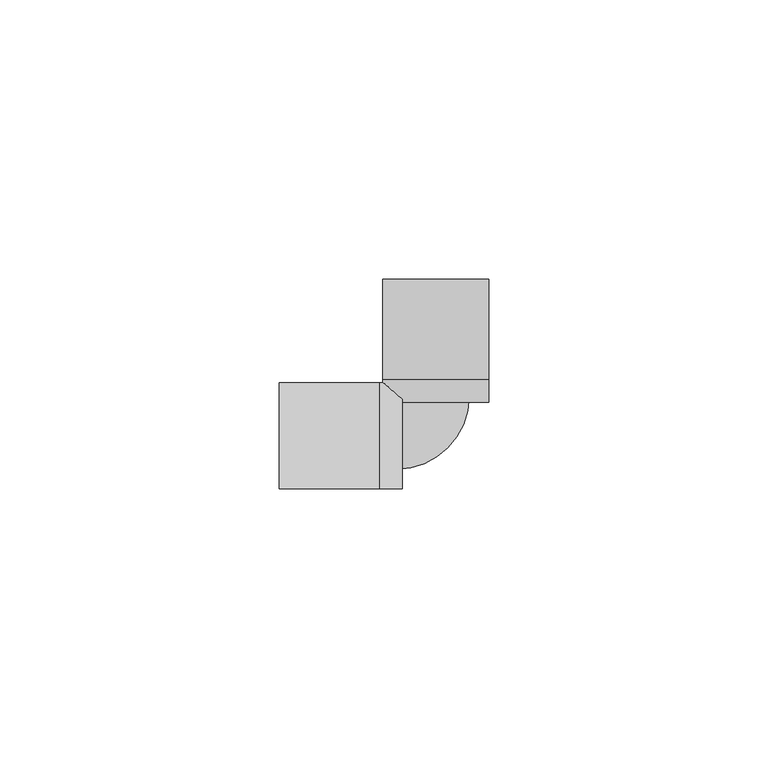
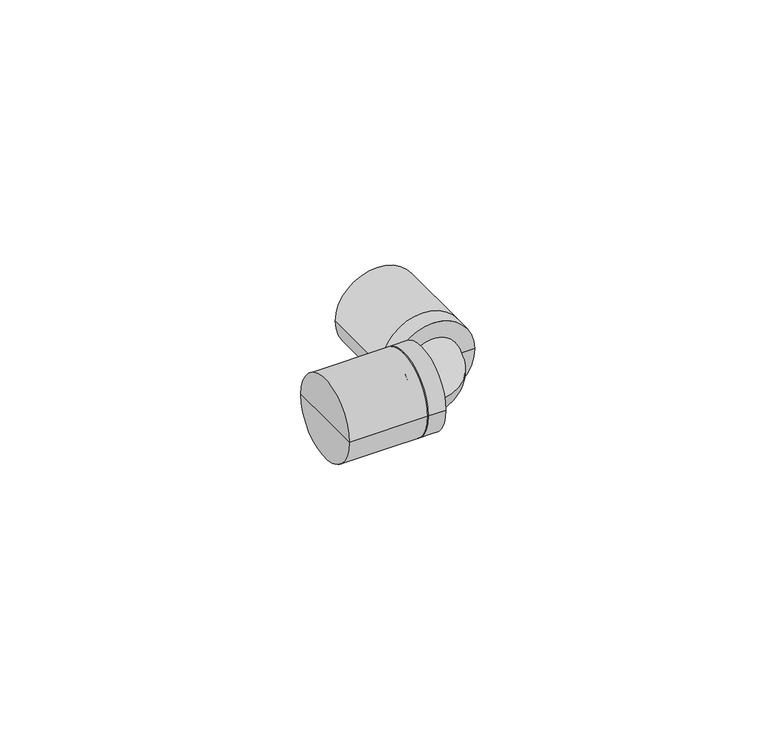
"""IFC4 building model written with IfcOpenShell, lengths in millimetres: pipe fitting geometry, KAN-therm Push kolano : KAN-therm Push kolano."""

import ifcopenshell
import ifcopenshell.guid

model = None  # the IFC model being written
_history = None  # IfcOwnerHistory: only IFC2X3 demands one
_inside = {}  # id of a spatial element -> (the spatial element, [elements in it])
_under = {}  # id of a project, library or spatial element -> (it, [spatial elements below it])
_declared = {}  # id of a project -> (the project, [libraries it declares])
_typed = {}  # id of a type object -> (the type object, [elements of that type])
_made_of = {}  # id of a material, layer set ... -> (it, [elements and type objects made of it])


def new_model(schema):
    """Start an empty IFC model of exactly this schema.

    Asked for "IFC4X3", IfcOpenShell would pick the latest addendum, in which some entities
    have other attributes; the version numbers below select the first issue.
    IFC2X3 requires an IfcOwnerHistory on every rooted entity: one is made here for all.
    """
    global model, _history
    if schema == "IFC4X3":
        model = ifcopenshell.file(schema_version=(4, 3, 0, 0))
    else:
        model = ifcopenshell.file(schema=schema)
    _inside.clear()
    _under.clear()
    _declared.clear()
    _typed.clear()
    _made_of.clear()
    _history = None
    if model.schema == "IFC2X3":
        org = make("IfcOrganization", Name="unknown")
        user = make(
            "IfcPersonAndOrganization",
            ThePerson=make("IfcPerson", FamilyName="unknown"),
            TheOrganization=org,
        )
        app = make(
            "IfcApplication",
            ApplicationDeveloper=org,
            Version="unknown",
            ApplicationFullName="unknown",
            ApplicationIdentifier="unknown",
        )
        _history = make(
            "IfcOwnerHistory",
            OwningUser=user,
            OwningApplication=app,
            ChangeAction="ADDED",
            CreationDate=0,
        )
    return model


def make(cls, **values):
    """One entity of the class cls with the attributes given. An attribute that is None is left unset."""
    return model.create_entity(
        cls, **{name: value for name, value in values.items() if value is not None}
    )


def rooted(cls, **values):
    """An entity with a GlobalId (a new one), such as an element, a storey or a relation."""
    return make(cls, GlobalId=ifcopenshell.guid.new(), OwnerHistory=_history, **values)


def si_unit(unit_type, name, prefix=None):
    """IfcSIUnit, for example si_unit("LENGTHUNIT", "METRE", prefix="MILLI")."""
    return make("IfcSIUnit", UnitType=unit_type, Prefix=prefix, Name=name)


def assignment(units):
    """IfcUnitAssignment: the units of a project."""
    return None if units is None else make("IfcUnitAssignment", Units=units)


def point(xyz):
    """IfcCartesianPoint."""
    return None if xyz is None else make("IfcCartesianPoint", Coordinates=xyz)


def direction(xyz):
    """IfcDirection."""
    return None if xyz is None else make("IfcDirection", DirectionRatios=xyz)


def frame(location, z_axis=None, x_axis=None):
    """IfcAxis2Placement3D, a coordinate frame: its origin and axes. An axis left out is left unset."""
    return make(
        "IfcAxis2Placement3D",
        Location=point(location),
        Axis=direction(z_axis),
        RefDirection=direction(x_axis),
    )


def origin():
    """The frame at (0, 0, 0) with its axes left unset."""
    return frame((0.0, 0.0, 0.0))


def place(relative_to, where):
    """IfcLocalPlacement: puts the frame where relative to a parent placement (None: the world)."""
    return make(
        "IfcLocalPlacement", PlacementRelTo=relative_to, RelativePlacement=where
    )


def context(
    kind, dimensions, precision=None, world=None, true_north=None, identifier=None
):
    """IfcGeometricRepresentationContext, for example the 3D "Model" context."""
    return make(
        "IfcGeometricRepresentationContext",
        ContextIdentifier=identifier,
        ContextType=kind,
        CoordinateSpaceDimension=dimensions,
        Precision=precision,
        WorldCoordinateSystem=world,
        TrueNorth=true_north,
    )


def project(units=None, contexts=None):
    """IfcProject with its units and contexts."""
    return rooted(
        "IfcProject",
        Name="project",
        RepresentationContexts=contexts,
        UnitsInContext=assignment(units),
    )


def spatial(cls, under=None, at=None, **own):
    """A site, building, storey or space (cls), placed at a placement, below another one or the project."""
    s = rooted(cls, ObjectPlacement=at, **own)
    if under is not None:
        _under.setdefault(under.id(), (under, []))[1].append(s)
    return s


def circle_curve(where, radius):
    """IfcCircle in the frame where."""
    return make("IfcCircle", Position=where, Radius=radius)


def ellipse_curve(where, semi_axis1, semi_axis2):
    """IfcEllipse in the frame where."""
    return make(
        "IfcEllipse", Position=where, SemiAxis1=semi_axis1, SemiAxis2=semi_axis2
    )


def trimmed(basis, trim1, trim2, sense, master):
    """IfcTrimmedCurve: the piece of a basis curve between two trims."""
    return make(
        "IfcTrimmedCurve",
        BasisCurve=basis,
        Trim1=trim1,
        Trim2=trim2,
        SenseAgreement=sense,
        MasterRepresentation=master,
    )


def shape(context_of_items, identifier, shape_type, items):
    """IfcShapeRepresentation: the items that make up one representation, for example the "Body"."""
    return make(
        "IfcShapeRepresentation",
        ContextOfItems=context_of_items,
        RepresentationIdentifier=identifier,
        RepresentationType=shape_type,
        Items=items,
    )


def source(mapping_origin, context_of_items, identifier, shape_type, items):
    """IfcRepresentationMap: a shape defined once, which mapped items show again and again."""
    return make(
        "IfcRepresentationMap",
        MappingOrigin=mapping_origin,
        MappedRepresentation=shape(context_of_items, identifier, shape_type, items),
    )


def transform(
    local_origin,
    x_axis=None,
    y_axis=None,
    z_axis=None,
    scale=None,
    scale2=None,
    scale3=None,
    uniform=True,
):
    """IfcCartesianTransformationOperator3D, or its non-uniform kind. x_axis, y_axis, z_axis: its Axis1, 2, 3."""
    if uniform:
        return make(
            "IfcCartesianTransformationOperator3D",
            Axis1=direction(x_axis),
            Axis2=direction(y_axis),
            LocalOrigin=point(local_origin),
            Scale=scale,
            Axis3=direction(z_axis),
        )
    return make(
        "IfcCartesianTransformationOperator3DnonUniform",
        Axis1=direction(x_axis),
        Axis2=direction(y_axis),
        LocalOrigin=point(local_origin),
        Scale=scale,
        Axis3=direction(z_axis),
        Scale2=scale2,
        Scale3=scale3,
    )


def mapped(mapping_source, mapping_target):
    """IfcMappedItem: shows the shape of a source again, moved by a transform."""
    return make(
        "IfcMappedItem", MappingSource=mapping_source, MappingTarget=mapping_target
    )


def made_of(thing, what):
    """Note that an element or type object is made of a material, layer set ...; save() writes the relation."""
    if what is not None:
        _made_of.setdefault(what.id(), (what, []))[1].append(thing)
    return thing


def element(
    cls,
    number,
    at=None,
    inside=None,
    cuts=None,
    type_object=None,
    material=None,
    context=None,
    identifier="Body",
    shape_type=None,
    held_by="IfcProductDefinitionShape",
    body=None,
    shapes=None,
    **own,
):
    """One element of the class cls, such as IfcWall. Its Tag is "e" and its number.

    at: its placement. inside: the storey or other place that contains it. cuts: it is an
    opening in that element (IfcRelVoidsElement). A single representation is given by context,
    identifier, shape_type and body (its items); several are given by shapes. held_by: the class
    of the entity that holds the representations. save() writes the other relations.
    """
    e = rooted(cls, Tag="e%d" % number, ObjectPlacement=at, **own)
    if body is not None:
        shapes = [shape(context, identifier, shape_type, body)]
    if shapes is not None:
        e.Representation = make(held_by, Representations=shapes)
    if inside is not None:
        _inside.setdefault(inside.id(), (inside, []))[1].append(e)
    if cuts is not None:
        rooted(
            "IfcRelVoidsElement", RelatingBuildingElement=cuts, RelatedOpeningElement=e
        )
    if type_object is not None:
        _typed.setdefault(type_object.id(), (type_object, []))[1].append(e)
    return made_of(e, material)


def aggregate(whole, parts):
    """IfcRelAggregates: a whole, such as a stair, and the parts it consists of."""
    return rooted("IfcRelAggregates", RelatingObject=whole, RelatedObjects=parts)


def save(model, path):
    """Write the relations noted so far, then the file.

    IfcRelAggregates (storeys below a building ...), IfcRelContainedInSpatialStructure (elements
    in a storey), IfcRelDefinesByType, IfcRelAssociatesMaterial and IfcRelDeclares: one each for
    every whole, place, type object, material and project.
    """
    for whole, parts in _under.values():
        aggregate(whole, parts)
    for where, things in _inside.values():
        rooted(
            "IfcRelContainedInSpatialStructure",
            RelatedElements=things,
            RelatingStructure=where,
        )
    for kind, things in _typed.values():
        rooted("IfcRelDefinesByType", RelatedObjects=things, RelatingType=kind)
    for what, things in _made_of.values():
        rooted("IfcRelAssociatesMaterial", RelatedObjects=things, RelatingMaterial=what)
    for by, libraries in _declared.values():
        rooted("IfcRelDeclares", RelatingContext=by, RelatedDefinitions=libraries)
    model.write(path)


def plane_surface(at):
    """IfcPlane: the flat surface through the origin of the frame at, square to its z axis."""
    return make("IfcPlane", Position=at)


def cylinder_surface(at, radius):
    """IfcCylindricalSurface: all points at the distance radius from the z axis of the frame at."""
    return make("IfcCylindricalSurface", Position=at, Radius=radius)


def revolved_surface(curve, axis_point, axis_direction):
    """IfcSurfaceOfRevolution: the curve turned about the line through axis_point along axis_direction."""
    return make(
        "IfcSurfaceOfRevolution",
        SweptCurve=make("IfcArbitraryOpenProfileDef", ProfileType="CURVE", Curve=curve),
        AxisPosition=make("IfcAxis1Placement", Location=point(axis_point), Axis=direction(axis_direction)),
    )


def advanced_brep(points, edges, surfaces, faces):
    """IfcAdvancedBrep: a solid bounded by faces that lie on surfaces and meet in shared edges.

    An edge is (start, end): straight between two places in points (the first is 0);
    or (start, end, curve); or (start, end, curve, False) where it runs against its curve.
    A face is (place in surfaces, loops), or (place, loops, False) where it looks against
    its surface's normal. A loop lists edges by number (the first is 1), with a minus sign
    where the edge is run from its end to its start. The first loop is the outer one.
    """
    corners = [point(p) for p in points]
    vertices = [make("IfcVertexPoint", VertexGeometry=c) for c in corners]
    made = []
    for start, end, *more in edges:
        made.append(
            make(
                "IfcEdgeCurve",
                EdgeStart=vertices[start],
                EdgeEnd=vertices[end],
                EdgeGeometry=more[0] if more else make("IfcPolyline", Points=[corners[start], corners[end]]),
                SameSense=more[1] if len(more) > 1 else True,
            )
        )
    hull = []
    for where, loops, *sense in faces:
        bounds = []
        for j, loop in enumerate(loops):
            ring = [make("IfcOrientedEdge", EdgeElement=made[abs(k) - 1], Orientation=k > 0) for k in loop]
            bounds.append(
                make(
                    "IfcFaceOuterBound" if j == 0 else "IfcFaceBound",
                    Bound=make("IfcEdgeLoop", EdgeList=ring),
                    Orientation=True,
                )
            )
        hull.append(make("IfcAdvancedFace", Bounds=bounds, FaceSurface=surfaces[where], SameSense=sense[0] if sense else True))
    return make("IfcAdvancedBrep", Outer=make("IfcClosedShell", CfsFaces=hull))


def pipe_fitting_6dfe967d(model_context):
    return source(origin(), model_context, "Body", "AdvancedBrep", [
        advanced_brep(
        [(-10.0, 9.5, 0.0), (-10.0, -9.5, 0.0), (-10.0, 0.0, 0.0), (-6.0, 9.5, 0.0), (-6.0, -9.5, 0.0), (-6.0, 0.0, 0.0)],
        [
            (0, 1, circle_curve(frame((-10.0, 0.0, 0.0), z_axis=(-1.0, 0.0, 0.0), x_axis=(0.0, -1.0, 0.0)), 9.5)),
            (1, 2),
            (2, 0),
            (1, 0, circle_curve(frame((-10.0, 0.0, 0.0), z_axis=(-1.0, 0.0, 0.0), x_axis=(0.0, -1.0, 0.0)), 9.5)),
            (3, 4, circle_curve(frame((-6.0, 0.0, 0.0), z_axis=(-1.0, 0.0, 0.0), x_axis=(0.0, -1.0, 0.0)), 9.5)),
            (4, 1),
            (0, 3),
            (4, 3, circle_curve(frame((-6.0, 0.0, 0.0), z_axis=(-1.0, 0.0, 0.0), x_axis=(0.0, -1.0, 0.0)), 9.5)),
            (5, 4),
            (3, 5),
        ],
        [
            plane_surface(frame((-10.0, 0.0, 0.0), z_axis=(-1.0, 0.0, 0.0), x_axis=(0.0, -1.0, 0.0))),
            cylinder_surface(frame((-2005.0, 0.0, 0.0), z_axis=(1.0, 0.0, 0.0), x_axis=(0.0, -1.0, 0.0)), 9.5),
            plane_surface(frame((-6.0, 0.0, 0.0), z_axis=(1.0, 0.0, 0.0), x_axis=(0.0, -1.0, 0.0))),
        ],
        [
            (0, [[1, 2, 3]]),
            (0, [[4, -3, -2]]),
            (1, [[5, 6, -1, 7]]),
            (1, [[8, -7, -4, -6]]),
            (2, [[9, -5, 10]]),
            (2, [[-10, -8, -9]]),
        ],
    ),
        advanced_brep(
        [(-28.0, 9.5, 0.0), (-28.0, -9.5, 0.0), (-28.0, 0.0, 0.0), (-10.0, 9.5, 0.0), (-10.0, -9.5, 0.0), (-10.0, 0.0, 0.0)],
        [
            (0, 1, circle_curve(frame((-28.0, 0.0, 0.0), z_axis=(-1.0, 0.0, 0.0), x_axis=(0.0, -1.0, 0.0)), 9.5)),
            (1, 2),
            (2, 0),
            (1, 0, circle_curve(frame((-28.0, 0.0, 0.0), z_axis=(-1.0, 0.0, 0.0), x_axis=(0.0, -1.0, 0.0)), 9.5)),
            (3, 4, circle_curve(frame((-10.0, 0.0, 0.0), z_axis=(-1.0, 0.0, 0.0), x_axis=(0.0, -1.0, 0.0)), 9.5)),
            (4, 1),
            (0, 3),
            (4, 3, circle_curve(frame((-10.0, 0.0, 0.0), z_axis=(-1.0, 0.0, 0.0), x_axis=(0.0, -1.0, 0.0)), 9.5)),
            (5, 4),
            (3, 5),
        ],
        [
            plane_surface(frame((-28.0, 0.0, 0.0), z_axis=(-1.0, 0.0, 0.0), x_axis=(0.0, -1.0, 0.0))),
            cylinder_surface(frame((-2005.0, 0.0, 0.0), z_axis=(1.0, 0.0, 0.0), x_axis=(0.0, -1.0, 0.0)), 9.5),
            plane_surface(frame((-10.0, 0.0, 0.0), z_axis=(1.0, 0.0, 0.0), x_axis=(0.0, -1.0, 0.0))),
        ],
        [
            (0, [[1, 2, 3]]),
            (0, [[4, -3, -2]]),
            (1, [[5, 6, -1, 7]]),
            (1, [[8, -7, -4, -6]]),
            (2, [[9, -5, 10]]),
            (2, [[-10, -8, -9]]),
        ],
    ),
        advanced_brep(
        [(9.5, 10.0, 0.0), (-9.5, 10.0, 0.0), (0.0, 10.0, 0.0), (9.5, 6.0, 0.0), (-9.5, 6.0, 0.0), (0.0, 6.0, 0.0)],
        [
            (0, 1, circle_curve(frame((0.0, 10.0, 0.0), z_axis=(0.0, 1.0, 0.0), x_axis=(-1.0, 0.0, 0.0)), 9.5)),
            (1, 2),
            (2, 0),
            (1, 0, circle_curve(frame((0.0, 10.0, 0.0), z_axis=(0.0, 1.0, 0.0), x_axis=(-1.0, 0.0, 0.0)), 9.5)),
            (3, 4, circle_curve(frame((0.0, 6.0, 0.0), z_axis=(0.0, 1.0, 0.0), x_axis=(-1.0, 0.0, 0.0)), 9.5)),
            (4, 1),
            (0, 3),
            (4, 3, circle_curve(frame((0.0, 6.0, 0.0), z_axis=(0.0, 1.0, 0.0), x_axis=(-1.0, 0.0, 0.0)), 9.5)),
            (5, 4),
            (3, 5),
        ],
        [
            plane_surface(frame((0.0, 10.0, 0.0), z_axis=(0.0, 1.0, 0.0), x_axis=(-1.0, 0.0, 0.0))),
            cylinder_surface(frame((0.0, 2005.0, 0.0), z_axis=(0.0, -1.0, 0.0), x_axis=(-1.0, 0.0, 0.0)), 9.5),
            plane_surface(frame((0.0, 6.0, 0.0), z_axis=(0.0, -1.0, 0.0), x_axis=(-1.0, 0.0, 0.0))),
        ],
        [
            (0, [[1, 2, 3]]),
            (0, [[4, -3, -2]]),
            (1, [[5, 6, -1, 7]]),
            (1, [[8, -7, -4, -6]]),
            (2, [[9, -5, 10]]),
            (2, [[-10, -8, -9]]),
        ],
    ),
        advanced_brep(
        [(9.5, 28.0, 0.0), (-9.5, 28.0, 0.0), (0.0, 28.0, 0.0), (9.5, 10.0, 0.0), (-9.5, 10.0, 0.0), (0.0, 10.0, 0.0)],
        [
            (0, 1, circle_curve(frame((0.0, 28.0, 0.0), z_axis=(0.0, 1.0, 0.0), x_axis=(-1.0, 0.0, 0.0)), 9.5)),
            (1, 2),
            (2, 0),
            (1, 0, circle_curve(frame((0.0, 28.0, 0.0), z_axis=(0.0, 1.0, 0.0), x_axis=(-1.0, 0.0, 0.0)), 9.5)),
            (3, 4, circle_curve(frame((0.0, 10.0, 0.0), z_axis=(0.0, 1.0, 0.0), x_axis=(-1.0, 0.0, 0.0)), 9.5)),
            (4, 1),
            (0, 3),
            (4, 3, circle_curve(frame((0.0, 10.0, 0.0), z_axis=(0.0, 1.0, 0.0), x_axis=(-1.0, 0.0, 0.0)), 9.5)),
            (5, 4),
            (3, 5),
        ],
        [
            plane_surface(frame((0.0, 28.0, 0.0), z_axis=(0.0, 1.0, 0.0), x_axis=(-1.0, 0.0, 0.0))),
            cylinder_surface(frame((0.0, 2005.0, 0.0), z_axis=(0.0, -1.0, 0.0), x_axis=(-1.0, 0.0, 0.0)), 9.5),
            plane_surface(frame((0.0, 10.0, 0.0), z_axis=(0.0, -1.0, 0.0), x_axis=(-1.0, 0.0, 0.0))),
        ],
        [
            (0, [[1, 2, 3]]),
            (0, [[4, -3, -2]]),
            (1, [[5, 6, -1, 7]]),
            (1, [[8, -7, -4, -6]]),
            (2, [[9, -5, 10]]),
            (2, [[-10, -8, -9]]),
        ],
    ),
        advanced_brep(
        [(-6.0, 10.0, 0.0), (6.0, 10.0, 0.0), (-10.0, 6.0, 0.0), (-10.0, -6.0, 0.0), (-7.0, -6.0, 0.0), (-7.0, 6.0, 0.0), (-6.0, 7.0, 0.0), (6.0, 7.0, 0.0)],
        [
            (0, 1, circle_curve(frame((0.0, 10.0, 0.0), z_axis=(0.0, 1.0, 0.0), x_axis=(1.0, 0.0, 0.0)), 6.0)),
            (1, 0, circle_curve(frame((0.0, 10.0, 0.0), z_axis=(0.0, 1.0, 0.0), x_axis=(1.0, 0.0, 0.0)), 6.0)),
            (2, 3, circle_curve(frame((-10.0, 0.0, 0.0), z_axis=(-1.0, 0.0, 0.0), x_axis=(0.0, -1.0, 0.0)), 6.0)),
            (3, 2, circle_curve(frame((-10.0, 0.0, 0.0), z_axis=(-1.0, 0.0, 0.0), x_axis=(0.0, -1.0, 0.0)), 6.0)),
            (4, 5, circle_curve(frame((-7.0, 0.0, 0.0), z_axis=(-1.0, 0.0, 0.0), x_axis=(0.0, -1.0, 0.0)), 6.0)),
            (5, 2),
            (3, 4),
            (5, 4, circle_curve(frame((-7.0, 0.0, 0.0), z_axis=(-1.0, 0.0, 0.0), x_axis=(0.0, -1.0, 0.0)), 6.0)),
            (0, 6),
            (6, 7, circle_curve(frame((0.0, 7.0, 0.0), z_axis=(0.0, 1.0, 0.0), x_axis=(1.0, 0.0, 0.0)), 6.0)),
            (7, 1),
            (7, 6, circle_curve(frame((0.0, 7.0, 0.0), z_axis=(0.0, 1.0, 0.0), x_axis=(1.0, 0.0, 0.0)), 6.0)),
            (4, 7, circle_curve(frame((-7.0, 7.0, 0.0), z_axis=(0.0, 0.0, 1.0), x_axis=(1.0, 0.0, 0.0)), 13.0)),
            (6, 5, circle_curve(frame((-7.0, 7.0, 0.0), z_axis=(0.0, 0.0, -1.0), x_axis=(1.0, 0.0, 0.0)), 1.0)),
        ],
        [
            plane_surface(frame((0.0, 10.0, 0.0), z_axis=(0.0, 1.0, 0.0), x_axis=(0.0, 0.0, 1.0))),
            plane_surface(frame((-10.0, 0.0, 0.0), z_axis=(-1.0, 0.0, 0.0), x_axis=(0.0, 0.0, 1.0))),
            cylinder_surface(frame((-7.0, 0.0, 0.0), z_axis=(1.0, 0.0, 0.0), x_axis=(0.0, -1.0, 0.0)), 6.0),
            cylinder_surface(frame((0.0, 10.0, 0.0), z_axis=(0.0, 1.0, 0.0), x_axis=(1.0, 0.0, 0.0)), 6.0),
            revolved_surface(trimmed(ellipse_curve(frame((0.0, 7.0, 0.0), z_axis=(0.0, 1.0, 0.0), x_axis=(1.0, 0.0, 0.0)), 6.0, 6.0), [point((-6.0, 7.0, 0.0))], [point((6.0, 7.0, 0.0))], True, "CARTESIAN"), (-7.0, 7.0, 0.0), (0.0, 0.0, -1.0)),
            revolved_surface(trimmed(ellipse_curve(frame((0.0, 7.0, 0.0), z_axis=(0.0, 1.0, 0.0), x_axis=(1.0, 0.0, 0.0)), 6.0, 6.0), [point((6.0, 7.0, 0.0))], [point((-6.0, 7.0, 0.0))], True, "CARTESIAN"), (-7.0, 7.0, 0.0), (0.0, 0.0, -1.0)),
        ],
        [
            (0, [[1, 2]]),
            (1, [[3, 4]]),
            (2, [[5, 6, -4, 7]]),
            (2, [[8, -7, -3, -6]]),
            (3, [[-1, 9, 10, 11]]),
            (3, [[-2, -11, 12, -9]]),
            (4, [[13, -10, 14, -5]]),
            (5, [[-14, -12, -13, -8]]),
        ],
    ),
    ])


if __name__ == "__main__":
    model = new_model("IFC4")
    model_context = context("Model", 3, world=origin())
    ifc_project = project(units=[si_unit("LENGTHUNIT", "METRE", prefix="MILLI")], contexts=[model_context])
    site = spatial("IfcSite", under=ifc_project)
    building = spatial("IfcBuilding", under=site)
    placement = place(None, origin())
    pipe_fitting_shape = pipe_fitting_6dfe967d(model_context)
    element("IfcPipeFitting", 1, ObjectType="KAN-therm Push kolano : KAN-therm Push kolano", at=placement, inside=building, context=model_context, shape_type="MappedRepresentation", body=[
        mapped(pipe_fitting_shape, transform((0.0, 0.0, 0.0), x_axis=(1.0, 0.0, 0.0), y_axis=(0.0, 1.0, 0.0), z_axis=(0.0, 0.0, 1.0))),
    ])
    save(model, "model.ifc")
